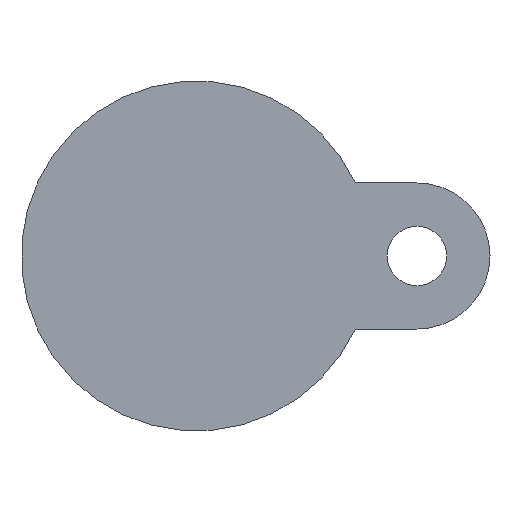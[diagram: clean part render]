
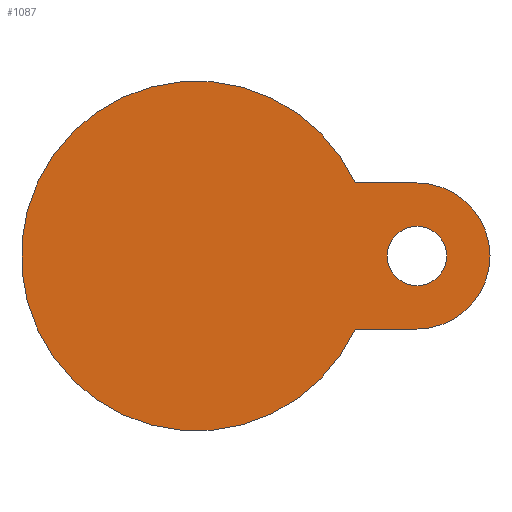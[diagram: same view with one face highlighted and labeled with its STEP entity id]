
A CAD part, front view. The second image highlights one B-rep face of the part: STEP entity #1087.
In plain terms, the highlighted planar face has unit normal (0, -1, 0).
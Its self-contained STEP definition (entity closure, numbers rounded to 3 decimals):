
#9 = AXIS2_PLACEMENT_3D ( 'NONE', #3089, #2401, #2062 ) ;
#32 = DIRECTION ( 'NONE',  ( 1., 0., 0. ) ) ;
#84 = ORIENTED_EDGE ( 'NONE', *, *, #1957, .T. ) ;
#111 = CARTESIAN_POINT ( 'NONE',  ( 65., -28., -21.5 ) ) ;
#482 = AXIS2_PLACEMENT_3D ( 'NONE', #986, #3449, #3693 ) ;
#500 = EDGE_CURVE ( 'NONE', #1023, #2684, #582, .T. ) ;
#582 = CIRCLE ( 'NONE', #2368, 21.5 ) ;
#689 = CIRCLE ( 'NONE', #771, 8.75 ) ;
#771 = AXIS2_PLACEMENT_3D ( 'NONE', #3744, #1776, #1466 ) ;
#865 = VERTEX_POINT ( 'NONE', #4076 ) ;
#875 = CARTESIAN_POINT ( 'NONE',  ( 73.75, -28., 0. ) ) ;
#898 = FACE_OUTER_BOUND ( 'NONE', #1358, .T. ) ;
#986 = CARTESIAN_POINT ( 'NONE',  ( 65., -28., 0. ) ) ;
#992 = CARTESIAN_POINT ( 'NONE',  ( 65., -28., 0. ) ) ;
#1023 = VERTEX_POINT ( 'NONE', #3331 ) ;
#1087 = ADVANCED_FACE ( 'NONE', ( #1224, #898 ), #3665, .T. ) ;
#1110 = CARTESIAN_POINT ( 'NONE',  ( 46.797, -28., 21.5 ) ) ;
#1170 = CARTESIAN_POINT ( 'NONE',  ( 41.5, -28., -21.5 ) ) ;
#1224 = FACE_BOUND ( 'NONE', #1930, .T. ) ;
#1358 = EDGE_LOOP ( 'NONE', ( #84, #2228, #2465, #2372 ) ) ;
#1393 = LINE ( 'NONE', #1170, #2190 ) ;
#1466 = DIRECTION ( 'NONE',  ( -1., 0., 0. ) ) ;
#1776 = DIRECTION ( 'NONE',  ( 0., 1., 0. ) ) ;
#1838 = VECTOR ( 'NONE', #32, 1000. ) ;
#1930 = EDGE_LOOP ( 'NONE', ( #4430, #3936 ) ) ;
#1957 = EDGE_CURVE ( 'NONE', #2187, #2118, #2439, .T. ) ;
#2062 = DIRECTION ( 'NONE',  ( 1., 0., 0. ) ) ;
#2118 = VERTEX_POINT ( 'NONE', #2836 ) ;
#2187 = VERTEX_POINT ( 'NONE', #1110 ) ;
#2190 = VECTOR ( 'NONE', #2521, 1000. ) ;
#2227 = EDGE_CURVE ( 'NONE', #2995, #865, #689, .T. ) ;
#2228 = ORIENTED_EDGE ( 'NONE', *, *, #2346, .F. ) ;
#2346 = EDGE_CURVE ( 'NONE', #2684, #2118, #1393, .T. ) ;
#2368 = AXIS2_PLACEMENT_3D ( 'NONE', #992, #3092, #3793 ) ;
#2372 = ORIENTED_EDGE ( 'NONE', *, *, #3559, .F. ) ;
#2401 = DIRECTION ( 'NONE',  ( 0., -1., 0. ) ) ;
#2439 = CIRCLE ( 'NONE', #9, 51.5 ) ;
#2465 = ORIENTED_EDGE ( 'NONE', *, *, #500, .F. ) ;
#2521 = DIRECTION ( 'NONE',  ( -1., 0., 0. ) ) ;
#2617 = EDGE_CURVE ( 'NONE', #865, #2995, #3188, .T. ) ;
#2663 = DIRECTION ( 'NONE',  ( 1., 0., 0. ) ) ;
#2684 = VERTEX_POINT ( 'NONE', #111 ) ;
#2836 = CARTESIAN_POINT ( 'NONE',  ( 46.797, -28., -21.5 ) ) ;
#2995 = VERTEX_POINT ( 'NONE', #875 ) ;
#3089 = CARTESIAN_POINT ( 'NONE',  ( 0., -28., 0. ) ) ;
#3092 = DIRECTION ( 'NONE',  ( 0., 1., 0. ) ) ;
#3144 = LINE ( 'NONE', #3726, #1838 ) ;
#3188 = CIRCLE ( 'NONE', #482, 8.75 ) ;
#3286 = DIRECTION ( 'NONE',  ( 0., -1., 0. ) ) ;
#3331 = CARTESIAN_POINT ( 'NONE',  ( 65., -28., 21.5 ) ) ;
#3449 = DIRECTION ( 'NONE',  ( 0., 1., 0. ) ) ;
#3559 = EDGE_CURVE ( 'NONE', #2187, #1023, #3144, .T. ) ;
#3575 = CARTESIAN_POINT ( 'NONE',  ( 51.5, -28., 0. ) ) ;
#3665 = PLANE ( 'NONE',  #4083 ) ;
#3693 = DIRECTION ( 'NONE',  ( -1., 0., 0. ) ) ;
#3726 = CARTESIAN_POINT ( 'NONE',  ( 41.5, -28., 21.5 ) ) ;
#3744 = CARTESIAN_POINT ( 'NONE',  ( 65., -28., 0. ) ) ;
#3793 = DIRECTION ( 'NONE',  ( 1., 0., 0. ) ) ;
#3936 = ORIENTED_EDGE ( 'NONE', *, *, #2227, .T. ) ;
#4076 = CARTESIAN_POINT ( 'NONE',  ( 56.25, -28., 0. ) ) ;
#4083 = AXIS2_PLACEMENT_3D ( 'NONE', #3575, #3286, #2663 ) ;
#4430 = ORIENTED_EDGE ( 'NONE', *, *, #2617, .T. ) ;
